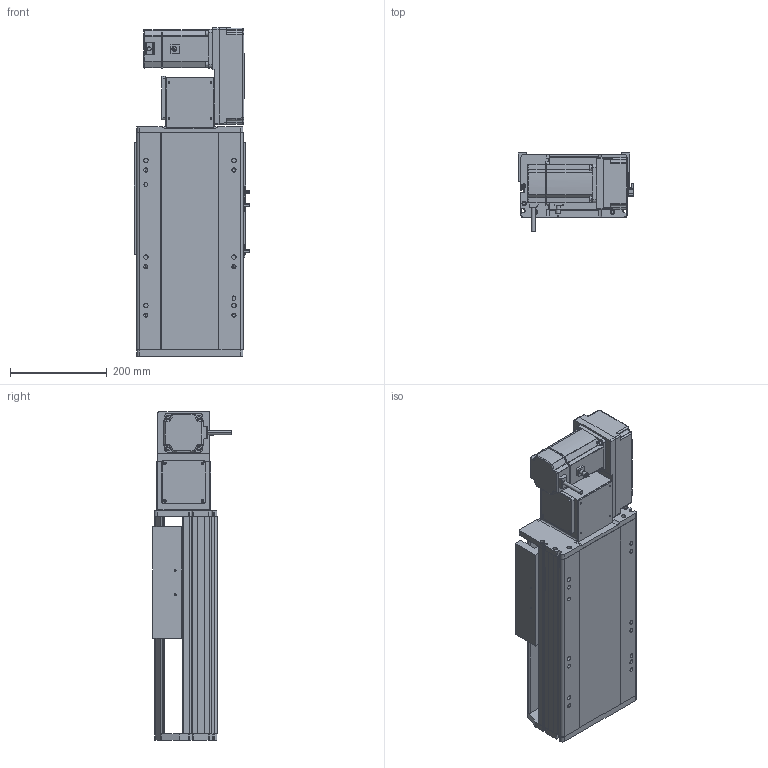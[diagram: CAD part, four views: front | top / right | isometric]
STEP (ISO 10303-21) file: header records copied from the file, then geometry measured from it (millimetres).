
FILE_DESCRIPTION (( 'STEP AP214' ), '1' );
FILE_NAME ('RTB22S-XX-100-R-M75-C4.STEP', '2025-12-12T07:13:01', ( '' ), ( '' ), 'SwSTEP 2.0', 'SolidWorks 2018', '' );
FILE_SCHEMA (( 'AUTOMOTIVE_DESIGN' ));
Length unit declared in the file: millimetre
Products named in the file (14): RTB22S-GY-005P^RTB22S-R-々湍釱蚾饜_RTB22S-XX-XX-R-M75-C4; RTH22-GY-013外置感应片^RTB22S-XX-XX-R-M75-C4; RTB22S-GY-001耜裔^RTB22S-XX-XX-R-M75-C4; RTB22S-GY-018P^RTB22S-R-々湍釱蚾饜_RTB22S-XX-XX-R-M75-C4; 750W萇儂^RTB22S-XX-XX-R-M75-C4; RTB22S-L-004賑釱^RTB22S-XX-XX-R-M75-C4; RTB22S-XX-100-R-M75-C4; RTB22S-GY-014--々湍釱^RTB22S-R-々湍釱蚾饜_RTB22S-XX-XX-R-M75-C4; OMRON EE-SX672 传感器^RTB22S-XX-XX-R-M75-C4; RTB22S-GY-007奻裔^RTB22S-XX-XX-R-M75-C4; RTB22S-GY-017P^RTB22S-R-々湍釱蚾饜_RTB22S-XX-XX-R-M75-C4; RTB22S-R-々湍釱蚾饜^RTB22S-XX-XX-R-M75-C4; RTB22S-L-011菁釱^RTB22S-XX-XX-R-M75-C4; RTB22S-GY-008-M75--萇儂啣^RTB22S-R-々湍釱蚾饜_RTB22S-XX-XX-R-M75-C4
Assembly tree (16 placements, depth 3):
  RTB22S-XX-100-R-M75-C4
    RTB22S-L-011菁釱^RTB22S-XX-XX-R-M75-C4
    RTB22S-GY-001耜裔^RTB22S-XX-XX-R-M75-C4
    750W萇儂^RTB22S-XX-XX-R-M75-C4
    RTB22S-GY-007奻裔^RTB22S-XX-XX-R-M75-C4
    RTB22S-L-004賑釱^RTB22S-XX-XX-R-M75-C4
    RTH22-GY-013外置感应片^RTB22S-XX-XX-R-M75-C4
    OMRON EE-SX672 传感器^RTB22S-XX-XX-R-M75-C4  x3
    RTB22S-R-々湍釱蚾饜^RTB22S-XX-XX-R-M75-C4
      RTB22S-GY-014--々湍釱^RTB22S-R-々湍釱蚾饜_RTB22S-XX-XX-R-M75-C4
      RTB22S-GY-017P^RTB22S-R-々湍釱蚾饜_RTB22S-XX-XX-R-M75-C4  x2
      RTB22S-GY-005P^RTB22S-R-々湍釱蚾饜_RTB22S-XX-XX-R-M75-C4
      RTB22S-GY-008-M75--萇儂啣^RTB22S-R-々湍釱蚾饜_RTB22S-XX-XX-R-M75-C4
      RTB22S-GY-018P^RTB22S-R-々湍釱蚾饜_RTB22S-XX-XX-R-M75-C4
Bounding box: 238.5 x 162.7 x 679 mm (x, y, z)
Volume: 10803092.6 mm3; surface area: 1168160.5 mm2
Topology: 15 solids, 15 shells, 1893 faces, 5136 edges, 3302 vertices
Faces by surface type: plane 905, cylinder 562, bspline 296, cone 118, sphere 8, torus 4
Entity records: 49478 total; most frequent: CARTESIAN_POINT 14432, ORIENTED_EDGE 7100, DIRECTION 6744, EDGE_CURVE 3550, AXIS2_PLACEMENT_3D 2346, VERTEX_POINT 2306, LINE 2052, VECTOR 2052
